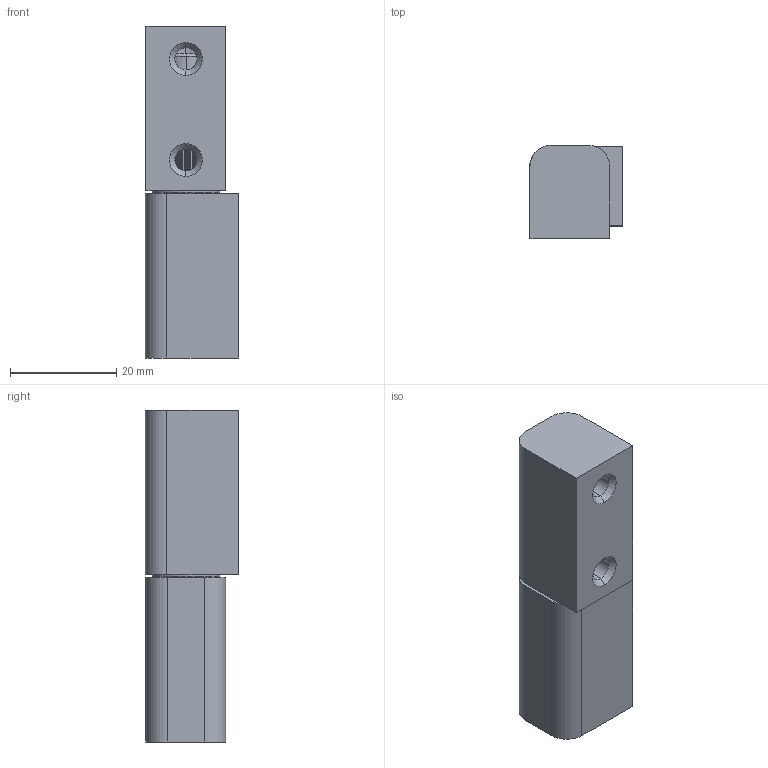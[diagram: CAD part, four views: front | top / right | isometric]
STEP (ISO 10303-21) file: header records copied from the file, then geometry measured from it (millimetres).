
FILE_DESCRIPTION (( 'STEP AP203' ), '1' );
FILE_NAME ('CL203S4B001.STEP', '2016-07-13T08:12:27', ( 'master' ), ( 'Microsoft' ), 'SwSTEP 2.0', 'SolidWorks 2014', '' );
FILE_SCHEMA (( 'CONFIG_CONTROL_DESIGN' ));
Length unit declared in the file: millimetre
Products named in the file (4): 8SJ.CL203-7.0470蝓蟈珜; 8SJ.CL203-7.0471蝓蟈珜1; 8SJ.CL203-7.0090蛌粣; CL203S4B001
Assembly tree (3 placements, depth 2):
  CL203S4B001
    8SJ.CL203-7.0470蝓蟈珜
    8SJ.CL203-7.0471蝓蟈珜1
    8SJ.CL203-7.0090蛌粣
Bounding box: 17.5 x 17.5 x 62.4 mm (x, y, z)
Volume: 14905.5 mm3; surface area: 8289.9 mm2
Topology: 3 solids, 3 shells, 307 faces, 736 edges, 479 vertices
Faces by surface type: plane 215, cylinder 72, cone 18, sphere 2
Entity records: 9532 total; most frequent: CARTESIAN_POINT 1746, DIRECTION 1602, ORIENTED_EDGE 1460, EDGE_CURVE 730, AXIS2_PLACEMENT_3D 567, VERTEX_POINT 479, LINE 468, VECTOR 468
